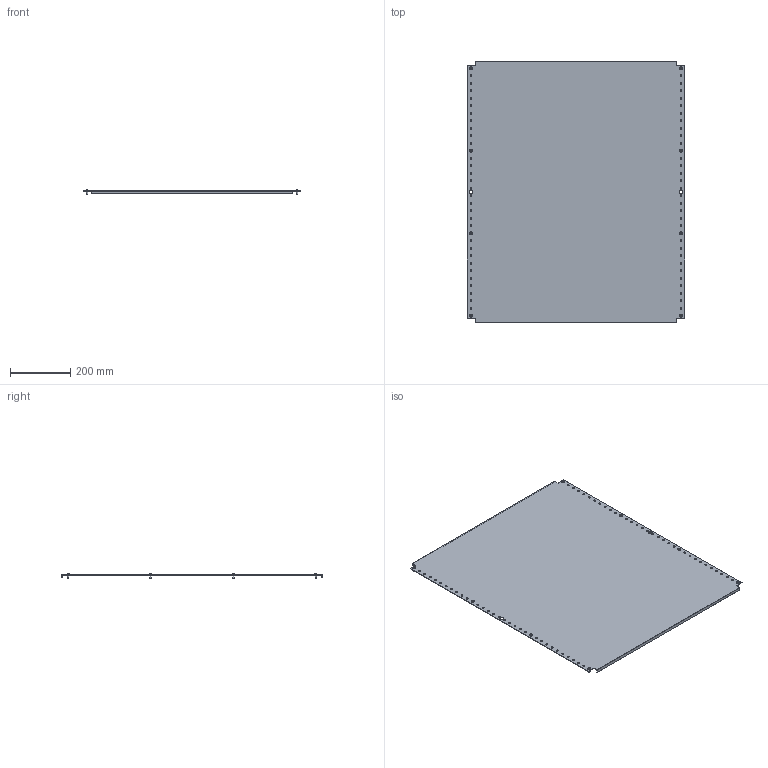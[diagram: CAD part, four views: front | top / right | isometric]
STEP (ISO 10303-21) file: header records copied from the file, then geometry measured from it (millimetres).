
FILE_DESCRIPTION (( 'STEP AP203' ), '1' );
FILE_NAME ('R6MP1080.STEP', '2025-03-28T12:04:34', ( '' ), ( '' ), 'SwSTEP 2.0', 'SolidWorks 2022', '' );
FILE_SCHEMA (( 'CONFIG_CONTROL_DESIGN' ));
Length unit declared in the file: millimetre
Products named in the file (3): R6MP1080; RB.3293.00.00.0_-03; M5x12 DIN 7500 C Torx Zinc_stright
Assembly tree (9 placements, depth 2):
  R6MP1080
    RB.3293.00.00.0_-03
    M5x12 DIN 7500 C Torx Zinc_stright  x8
Bounding box: 725 x 870 x 15.56 mm (x, y, z)
Volume: 1151079.3 mm3; surface area: 1287058.9 mm2
Topology: 9 solids, 9 shells, 230 faces, 540 edges, 336 vertices
Faces by surface type: plane 94, cylinder 88, torus 16, cone 16, sphere 8, bspline 8
Full cylindrical faces by diameter (mm): 5 x8, 6.5 x68, 9.5 x8
Entity records: 4453 total; most frequent: CARTESIAN_POINT 800, DIRECTION 660, ORIENTED_EDGE 504, EDGE_LOOP 334, AXIS2_PLACEMENT_3D 286, EDGE_CURVE 252, VERTEX_POINT 214, FACE_OUTER_BOUND 192
